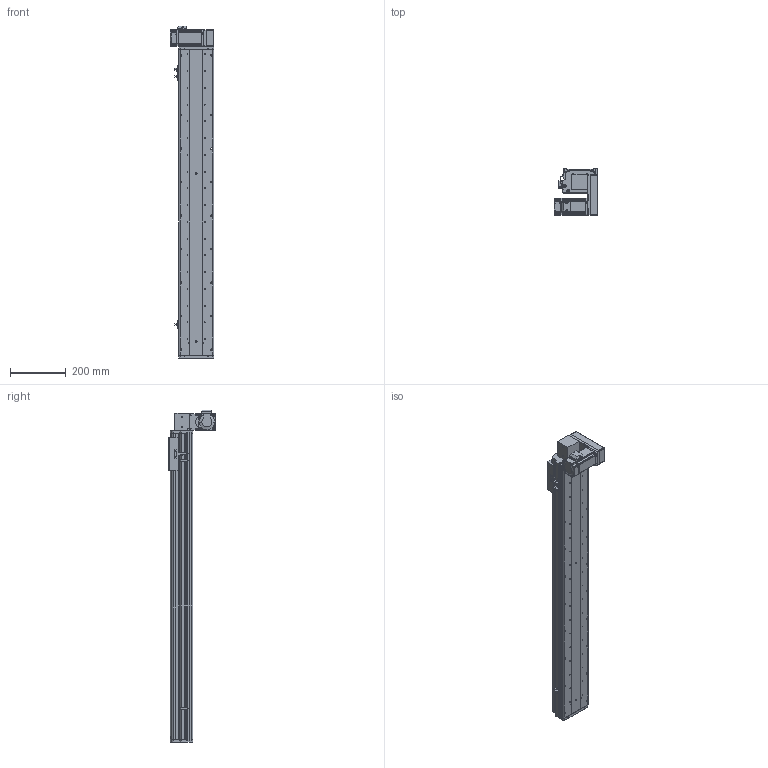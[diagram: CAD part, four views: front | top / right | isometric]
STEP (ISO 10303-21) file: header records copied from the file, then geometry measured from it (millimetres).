
FILE_DESCRIPTION (( 'STEP AP214' ), '1' );
FILE_NAME ('KSD125B-S900-MLD-CM.STEP', '2017-10-21T02:27:17', ( '微软用户' ), ( '微软中国' ), 'SwSTEP 2.0', 'SolidWorks 2014', '' );
FILE_SCHEMA (( 'AUTOMOTIVE_DESIGN' ));
Length unit declared in the file: millimetre
Products named in the file (17): 125模组同步带-尾端板1; KSD125模组同步带-滑动座1; KSD125B-S900-MLD-CM; 悵誘欶奻狟殏; 100宽马达安装板连板上下折丝杆同步带; HTPA30S3M150_A_H6_a佪裝蚚; HTPA30S3M150_A_H6_a萇儂蚚; 100宽马达安装板同步带左; KSD125模组900行程同步带-防尘盖; 125模组900行程同步带-底板; MHMD042G1CA_2_03; KSD125模组同步带-防撞垫2; 覜茼え68遵圉猾敕; U倰嫖萇假蚾璃; U倰嫖萇EEㄜSX672; KSD125模组同步带-防撞垫1; 前端板-125宽模组同步带
Assembly tree (20 placements, depth 2):
  KSD125B-S900-MLD-CM
    KSD125模组同步带-滑动座1
    125模组同步带-尾端板1
    前端板-125宽模组同步带
    KSD125模组同步带-防撞垫1
    U倰嫖萇EEㄜSX672  x3
    U倰嫖萇假蚾璃  x3
    覜茼え68遵圉猾敕
    KSD125模组同步带-防撞垫2
    MHMD042G1CA_2_03
    125模组900行程同步带-底板
    KSD125模组900行程同步带-防尘盖
    100宽马达安装板同步带左
    HTPA30S3M150_A_H6_a萇儂蚚
    HTPA30S3M150_A_H6_a佪裝蚚
    100宽马达安装板连板上下折丝杆同步带
    悵誘欶奻狟殏
Bounding box: 155 x 166.5 x 1189 mm (x, y, z)
Volume: 3659969 mm3; surface area: 1235760.4 mm2
Topology: 19 solids, 22 shells, 2297 faces, 6655 edges, 4398 vertices
Faces by surface type: cylinder 1444, plane 726, cone 105, bspline 22
Entity records: 81785 total; most frequent: CARTESIAN_POINT 16125, DIRECTION 12712, ORIENTED_EDGE 11830, EDGE_CURVE 5993, AXIS2_PLACEMENT_3D 4917, VERTEX_POINT 3990, VECTOR 2878, LINE 2878
